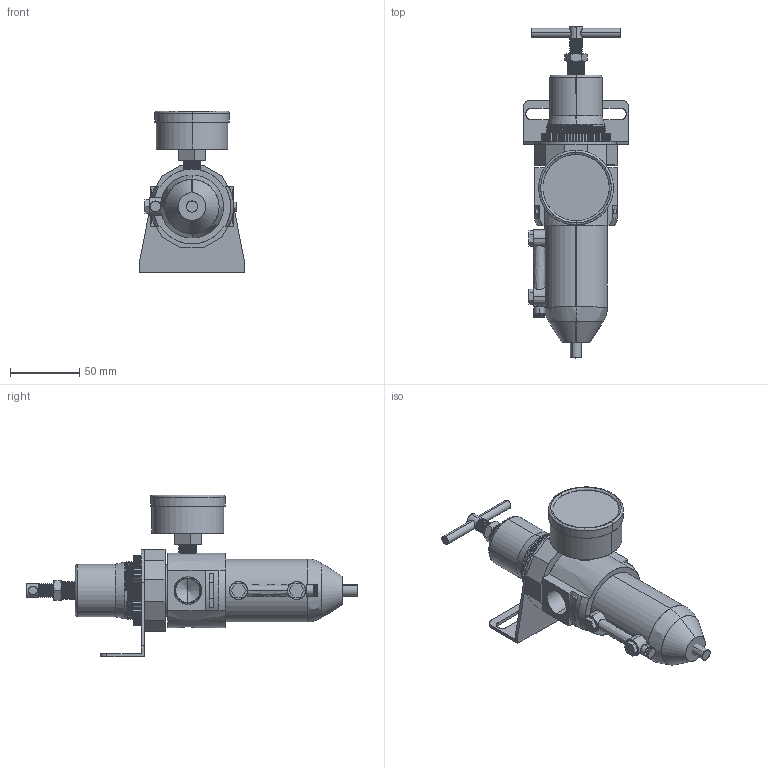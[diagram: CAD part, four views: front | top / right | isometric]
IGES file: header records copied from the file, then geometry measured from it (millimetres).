
Start section: SolidWorks IGES file using analytic representation for surfaces
Global section: file name: C:\Users\Toshiba\Desktop\B012W-04#YGB#.IGS; native system: SolidWorks 2014; preprocessor: SolidWorks 2014; author: Toshiba; date: 160216.111716; units: millimetre
Bounding box: 76 x 240 x 117 mm (x, y, z)
Surface area: 76429.6 mm2 (no closed solid volume)
Topology: 0 solids, 0 shells, 747 faces, 8456 edges, 8447 vertices
Faces by surface type: bspline 463, revolution 284
